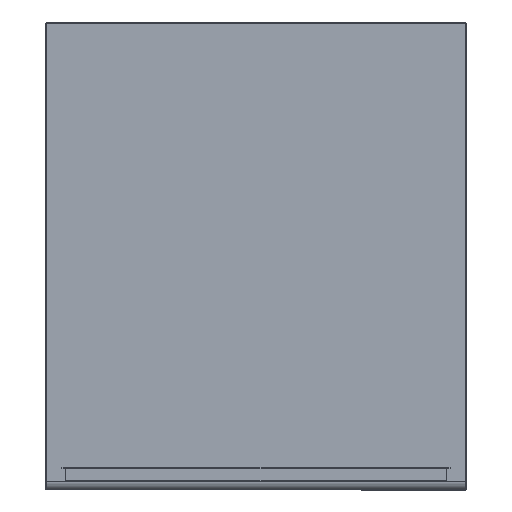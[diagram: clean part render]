
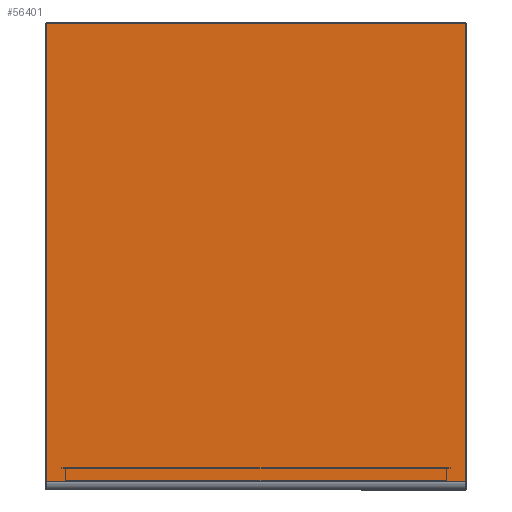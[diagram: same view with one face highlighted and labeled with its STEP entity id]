
A CAD part, top view. The second image highlights one B-rep face of the part: STEP entity #56401.
In plain terms, the highlighted planar face has unit normal (0, 0, 1).
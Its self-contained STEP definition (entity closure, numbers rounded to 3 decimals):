
#5514=LINE('',#87555,#11715);
#5515=LINE('',#87557,#11716);
#5516=LINE('',#87558,#11717);
#5517=LINE('',#87560,#11718);
#11715=VECTOR('',#71904,1000.);
#11716=VECTOR('',#71905,1000.);
#11717=VECTOR('',#71906,1000.);
#11718=VECTOR('',#71907,1000.);
#24231=ORIENTED_EDGE('',*,*,#34386,.F.);
#24232=ORIENTED_EDGE('',*,*,#34387,.T.);
#24233=ORIENTED_EDGE('',*,*,#34388,.T.);
#24234=ORIENTED_EDGE('',*,*,#34389,.T.);
#34386=EDGE_CURVE('',#40430,#40439,#5514,.T.);
#34387=EDGE_CURVE('',#40430,#40436,#5515,.T.);
#34388=EDGE_CURVE('',#40436,#40440,#5516,.T.);
#34389=EDGE_CURVE('',#40440,#40439,#5517,.T.);
#40430=VERTEX_POINT('',#87535);
#40436=VERTEX_POINT('',#87548);
#40439=VERTEX_POINT('',#87556);
#40440=VERTEX_POINT('',#87559);
#46522=EDGE_LOOP('',(#24231,#24232,#24233,#24234));
#51023=FACE_BOUND('',#46522,.T.);
#53931=PLANE('',#60326);
#56401=ADVANCED_FACE('',(#51023),#53931,.T.);
#60326=AXIS2_PLACEMENT_3D('',#87554,#71902,#71903);
#71902=DIRECTION('',(0.,0.,1.));
#71903=DIRECTION('',(0.,-1.,0.));
#71904=DIRECTION('',(1.,0.,0.));
#71905=DIRECTION('',(0.,-1.,0.));
#71906=DIRECTION('',(1.,0.,0.));
#71907=DIRECTION('',(0.,1.,0.));
#87535=CARTESIAN_POINT('',(-266.798,291.148,21.));
#87548=CARTESIAN_POINT('',(-266.798,-291.85,21.));
#87554=CARTESIAN_POINT('',(-267.5,291.85,21.));
#87555=CARTESIAN_POINT('',(-267.5,291.148,21.));
#87556=CARTESIAN_POINT('',(266.798,291.148,21.));
#87557=CARTESIAN_POINT('',(-266.798,291.148,21.));
#87558=CARTESIAN_POINT('',(-267.5,-291.85,21.));
#87559=CARTESIAN_POINT('',(266.798,-291.85,21.));
#87560=CARTESIAN_POINT('',(266.798,-291.85,21.));
